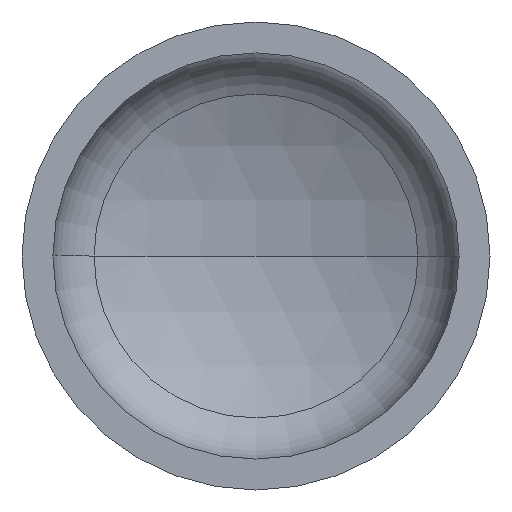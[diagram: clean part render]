
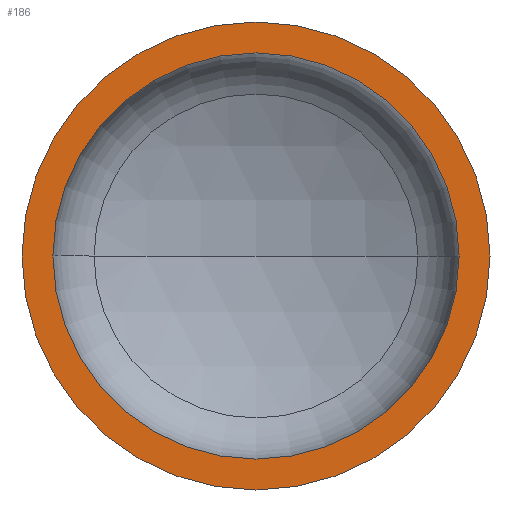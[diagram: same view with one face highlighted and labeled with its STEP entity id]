
A CAD part, front view. The second image highlights one B-rep face of the part: STEP entity #186.
In plain terms, the highlighted planar face has unit normal (0, -1, 0).
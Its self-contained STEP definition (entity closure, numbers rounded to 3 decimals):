
#6 = AXIS2_PLACEMENT_3D ( 'NONE', #248, #398, #270 ) ;
#20 = CARTESIAN_POINT ( 'NONE',  ( 500., 0., 0. ) ) ;
#25 = CIRCLE ( 'NONE', #6, 500. ) ;
#38 = AXIS2_PLACEMENT_3D ( 'NONE', #393, #81, #308 ) ;
#42 = ORIENTED_EDGE ( 'NONE', *, *, #118, .F. ) ;
#45 = AXIS2_PLACEMENT_3D ( 'NONE', #289, #97, #314 ) ;
#59 = ORIENTED_EDGE ( 'NONE', *, *, #112, .T. ) ;
#69 = DIRECTION ( 'NONE',  ( 1., 0., 0. ) ) ;
#74 = AXIS2_PLACEMENT_3D ( 'NONE', #408, #281, #69 ) ;
#75 = ORIENTED_EDGE ( 'NONE', *, *, #360, .F. ) ;
#76 = AXIS2_PLACEMENT_3D ( 'NONE', #337, #212, #366 ) ;
#79 = VERTEX_POINT ( 'NONE', #84 ) ;
#81 = DIRECTION ( 'NONE',  ( 0., 1., 0. ) ) ;
#84 = CARTESIAN_POINT ( 'NONE',  ( -500., 0., 0. ) ) ;
#86 = VERTEX_POINT ( 'NONE', #113 ) ;
#97 = DIRECTION ( 'NONE',  ( 0., -1., 0. ) ) ;
#103 = VERTEX_POINT ( 'NONE', #20 ) ;
#112 = EDGE_CURVE ( 'NONE', #79, #103, #181, .T. ) ;
#113 = CARTESIAN_POINT ( 'NONE',  ( -434., 0., 0. ) ) ;
#118 = EDGE_CURVE ( 'NONE', #134, #86, #312, .T. ) ;
#125 = ORIENTED_EDGE ( 'NONE', *, *, #386, .T. ) ;
#128 = EDGE_LOOP ( 'NONE', ( #42, #75 ) ) ;
#134 = VERTEX_POINT ( 'NONE', #240 ) ;
#148 = EDGE_LOOP ( 'NONE', ( #125, #59 ) ) ;
#181 = CIRCLE ( 'NONE', #76, 500. ) ;
#186 = ADVANCED_FACE ( 'NONE', ( #296, #401 ), #284, .F. ) ;
#212 = DIRECTION ( 'NONE',  ( 0., -1., 0. ) ) ;
#240 = CARTESIAN_POINT ( 'NONE',  ( 434., 0., 0. ) ) ;
#248 = CARTESIAN_POINT ( 'NONE',  ( 0., 0., 0. ) ) ;
#270 = DIRECTION ( 'NONE',  ( 1., 0., 0. ) ) ;
#281 = DIRECTION ( 'NONE',  ( 0., -1., 0. ) ) ;
#284 = PLANE ( 'NONE',  #38 ) ;
#289 = CARTESIAN_POINT ( 'NONE',  ( 0., 0., 0. ) ) ;
#296 = FACE_BOUND ( 'NONE', #128, .T. ) ;
#308 = DIRECTION ( 'NONE',  ( -1., 0., 0. ) ) ;
#312 = CIRCLE ( 'NONE', #74, 434. ) ;
#314 = DIRECTION ( 'NONE',  ( 1., 0., 0. ) ) ;
#337 = CARTESIAN_POINT ( 'NONE',  ( 0., 0., 0. ) ) ;
#360 = EDGE_CURVE ( 'NONE', #86, #134, #385, .T. ) ;
#366 = DIRECTION ( 'NONE',  ( 1., 0., 0. ) ) ;
#385 = CIRCLE ( 'NONE', #45, 434. ) ;
#386 = EDGE_CURVE ( 'NONE', #103, #79, #25, .T. ) ;
#393 = CARTESIAN_POINT ( 'NONE',  ( -500., 0., 0. ) ) ;
#398 = DIRECTION ( 'NONE',  ( 0., -1., 0. ) ) ;
#401 = FACE_OUTER_BOUND ( 'NONE', #148, .T. ) ;
#408 = CARTESIAN_POINT ( 'NONE',  ( 0., 0., 0. ) ) ;
